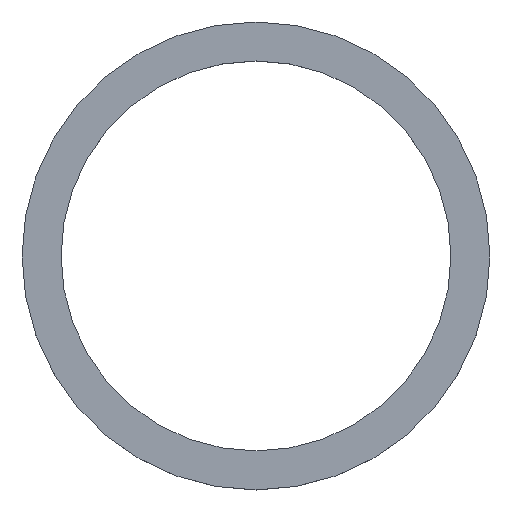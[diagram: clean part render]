
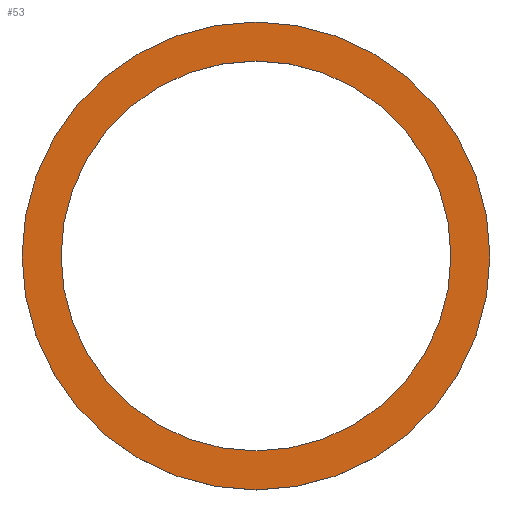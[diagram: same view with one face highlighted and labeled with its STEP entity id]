
A CAD part, top view. The second image highlights one B-rep face of the part: STEP entity #53.
In plain terms, the highlighted planar face has unit normal (0, 0, 1).
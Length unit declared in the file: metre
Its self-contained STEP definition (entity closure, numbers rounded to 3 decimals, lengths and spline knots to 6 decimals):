
#12=PLANE('',#72);
#16=ORIENTED_EDGE('',*,*,#23,.T.);
#17=ORIENTED_EDGE('',*,*,#24,.F.);
#23=EDGE_CURVE('',#27,#27,#31,.T.);
#24=EDGE_CURVE('',#28,#28,#32,.T.);
#27=VERTEX_POINT('',#100);
#28=VERTEX_POINT('',#103);
#31=CIRCLE('',#71,0.003);
#32=CIRCLE('',#73,0.0025);
#36=EDGE_LOOP('',(#16));
#37=EDGE_LOOP('',(#17));
#44=FACE_BOUND('',#36,.T.);
#45=FACE_BOUND('',#37,.T.);
#53=ADVANCED_FACE('',(#44,#45),#12,.T.);
#71=AXIS2_PLACEMENT_3D('',#99,#83,#84);
#72=AXIS2_PLACEMENT_3D('',#101,#85,#86);
#73=AXIS2_PLACEMENT_3D('',#102,#87,#88);
#83=DIRECTION('',(0.,0.,1.));
#84=DIRECTION('',(-1.,0.,0.));
#85=DIRECTION('',(0.,0.,1.));
#86=DIRECTION('',(1.,0.,0.));
#87=DIRECTION('',(0.,0.,1.));
#88=DIRECTION('',(1.,0.,0.));
#99=CARTESIAN_POINT('',(-0.060677,0.057839,0.219183));
#100=CARTESIAN_POINT('',(-0.063677,0.057839,0.219183));
#101=CARTESIAN_POINT('',(-0.060677,0.057839,0.219183));
#102=CARTESIAN_POINT('',(-0.060677,0.057839,0.219183));
#103=CARTESIAN_POINT('',(-0.058177,0.057839,0.219183));
